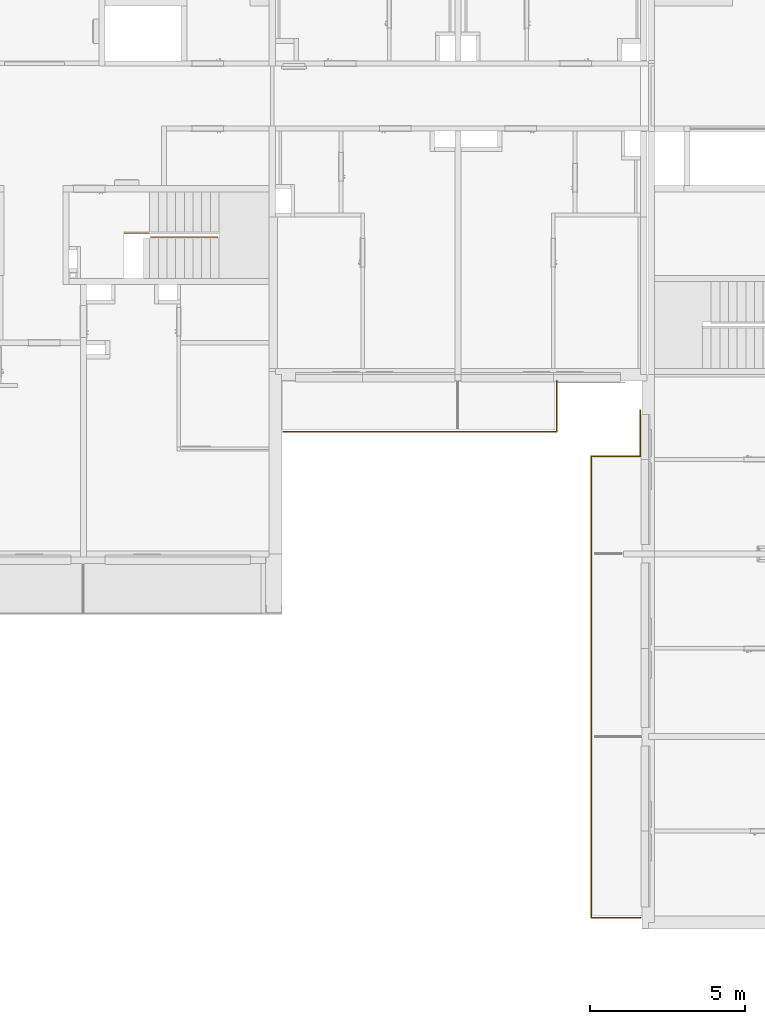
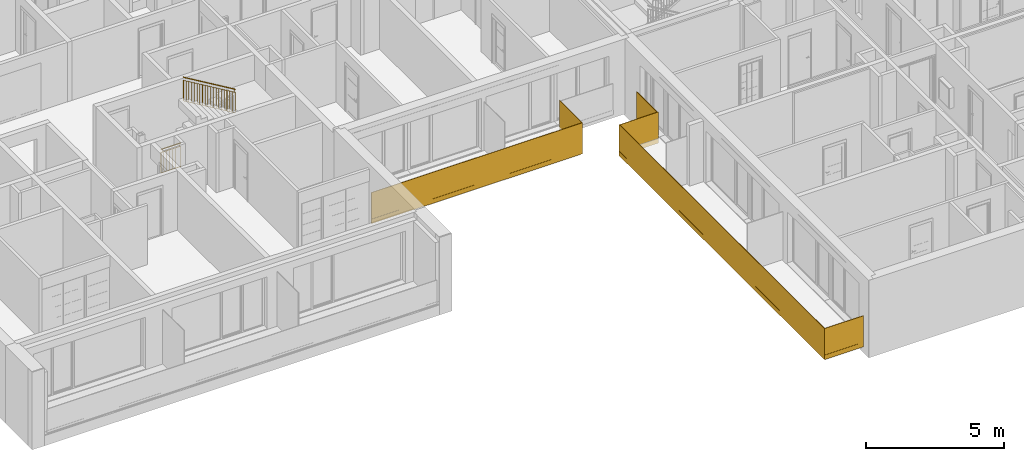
# One storey, part 6 of 67: 5 railings.
"""IFC2X3 building model written with IfcOpenShell, lengths in millimetres."""

from ifc_helpers import new_model, entity, si_unit, converted_unit, derived_unit, money_unit, direction, frame, origin_with_axes, place, context, subcontext, project, spatial, faceted_brep, material, material_list, type_object, element, save


model = new_model("IFC2X3")

# Units and contexts
model_context = context("Model", 3, precision=0.01, world=origin_with_axes(), true_north=direction((0.34421633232, 0.938890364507)))
body_context = subcontext(model_context, "Body", "Model", "MODEL_VIEW")
ifc_project = project(units=[si_unit("LENGTHUNIT", "METRE", prefix="MILLI"), si_unit("AREAUNIT", "SQUARE_METRE"), si_unit("VOLUMEUNIT", "CUBIC_METRE"), converted_unit("PLANEANGLEUNIT", "DEGREE", entity("IfcPlaneAngleMeasure", 0.0174532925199), si_unit("PLANEANGLEUNIT", "RADIAN"), dimensions=[0, 0, 0, 0, 0, 0, 0]), si_unit("SOLIDANGLEUNIT", "STERADIAN"), money_unit("USD"), converted_unit("TIMEUNIT", "Year", entity("IfcTimeMeasure", 31556926.0), si_unit("TIMEUNIT", "SECOND"), dimensions=[0, 0, 1, 0, 0, 0, 0]), si_unit("MASSUNIT", "GRAM", prefix="KILO"), si_unit("THERMODYNAMICTEMPERATUREUNIT", "DEGREE_CELSIUS"), si_unit("LUMINOUSINTENSITYUNIT", "LUMEN"), si_unit("ENERGYUNIT", "JOULE", prefix="MEGA"), derived_unit("THERMALCONDUCTANCEUNIT", [(si_unit("POWERUNIT", "WATT"), 1), (si_unit("LENGTHUNIT", "METRE"), -1), (si_unit("THERMODYNAMICTEMPERATUREUNIT", "KELVIN"), -1)]), derived_unit("SPECIFICHEATCAPACITYUNIT", [(si_unit("ENERGYUNIT", "JOULE"), 1), (si_unit("MASSUNIT", "GRAM", prefix="KILO"), -1), (si_unit("THERMODYNAMICTEMPERATUREUNIT", "KELVIN"), -1)]), derived_unit("MASSDENSITYUNIT", [(si_unit("MASSUNIT", "GRAM", prefix="KILO"), 1), (si_unit("VOLUMEUNIT", "CUBIC_METRE"), -1)])], contexts=[model_context])

# Site, building, storey
site_placement = place(None, origin_with_axes())
site = spatial("IfcSite", under=ifc_project, at=site_placement, Name="USTRONIE MORSKIE", CompositionType="ELEMENT")
building_placement = place(site_placement, origin_with_axes())
building = spatial("IfcBuilding", under=site, at=building_placement, Name="Budynek", CompositionType="ELEMENT")
storey_placement = place(building_placement, frame((0.0, 0.0, 4000.0), z_axis=(0.0, 0.0, 1.0), x_axis=(1.0, 0.0, 0.0)))
storey = spatial("IfcBuildingStorey", under=building, at=storey_placement, Name="PIĘTRO 1", CompositionType="ELEMENT", Elevation=4000.0)

# Railings
ifc_material_1 = material(Name="Szkło struktualne")
ifc_material_2 = material(Name="Profile aluminiowe")
ifc_material_list_1 = material_list([ifc_material_1, ifc_material_2, ifc_material_1, ifc_material_2, ifc_material_1, ifc_material_2])
railing_type = type_object("IfcRailingType", Name="Typ balustrady", PredefinedType="NOTDEFINED")
railing_1_placement = place(storey_placement, frame((408267.914768, 724111.198359, 0.0), z_axis=(0.0, 0.0, 1.0), x_axis=(-1.0, 0.0, 0.0)))
element("IfcRailing", 1, at=railing_1_placement, inside=storey, type_object=railing_type, material=ifc_material_list_1, Name="BL1", PredefinedType="NOTDEFINED", context=body_context, shape_type="Brep", body=[
    faceted_brep([(29.9999996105, -40.0000002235, -300.00000039), (29.9999996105, -40.0000002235, 1069.99999972), (1639.99901128, -40.0000002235, 1069.99999972), (1639.99901128, -40.0000002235, -300.00000039), (29.9999996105, -59.9999997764, 1069.99999972), (29.9999996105, -59.9999997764, -300.00000039), (1659.99896906, -59.9999997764, 1069.99999972), (1659.99896906, -59.9999997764, -300.00000039)], [[[0, 1, 2, 3]], [[4, 1, 0, 5]], [[2, 1, 4, 6]], [[3, 2, 6, 7]], [[5, 0, 3, 7]], [[6, 4, 5, 7]]]),
    faceted_brep([(1649.99899054, -64.9999999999, -105.0), (30.0, -64.9999999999, -105.0), (30.0, -64.9999999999, -305.0), (1649.99899054, -64.9999999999, -305.0), (1649.99899054, -59.9999999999, -105.0), (30.0, -59.9999999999, -105.0), (30.0, -59.9999999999, -300.0), (30.0, -40.0, -300.0), (30.0, -40.0, -105.0), (30.0, -35.0, -105.0), (30.0, -35.0, -305.0), (1649.99899054, -35.0, -305.0), (1649.99899054, -35.0, -105.0), (1649.99899054, -40.0, -105.0), (1649.99899054, -40.0, -300.0), (1649.99899054, -59.9999999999, -300.0)], [[[0, 1, 2, 3]], [[1, 0, 4, 5]], [[6, 7, 8, 9, 10, 2, 1, 5]], [[10, 11, 3, 2]], [[11, 12, 13, 14, 15, 4, 0, 3]], [[15, 6, 5, 4]], [[7, 6, 15, 14]], [[8, 7, 14, 13]], [[9, 8, 13, 12]], [[11, 10, 9, 12]]]),
    faceted_brep([(1639.99901165, -40.000000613, -300.00000039), (1639.99901165, -40.000000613, 1069.99999972), (1640.03011585, 14849.9993229, 1069.99999972), (1640.03011585, 14849.9993229, -300.00000039), (1659.99896943, -60.0000001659, 1069.99999972), (1659.99896943, -60.0000001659, -300.00000039), (1660.03015719, 14869.9993224, 1069.99999972), (1660.03015719, 14869.9993224, -300.00000039)], [[[0, 1, 2, 3]], [[4, 1, 0, 5]], [[2, 1, 4, 6]], [[3, 2, 6, 7]], [[5, 0, 3, 7]], [[6, 4, 5, 7]]]),
    faceted_brep([(1665.03013652, 14859.9992911, -105.0), (1664.99899054, -50.000031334, -105.0), (1664.99899054, -50.000031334, -305.0), (1665.03013652, 14859.9992911, -305.0), (1660.03013652, 14859.9993015, -105.0), (1659.99899054, -50.0000208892, -105.0), (1659.99899054, -50.0000208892, -300.0), (1639.99899054, -49.9999791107, -300.0), (1639.99899054, -49.9999791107, -105.0), (1634.99899054, -49.9999686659, -105.0), (1634.99899054, -49.9999686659, -305.0), (1635.03013652, 14859.9993537, -305.0), (1635.03013652, 14859.9993537, -105.0), (1640.03013652, 14859.9993433, -105.0), (1640.03013652, 14859.9993433, -300.0), (1660.03013652, 14859.9993015, -300.0)], [[[0, 1, 2, 3]], [[1, 0, 4, 5]], [[6, 7, 8, 9, 10, 2, 1, 5]], [[10, 11, 3, 2]], [[11, 12, 13, 14, 15, 4, 0, 3]], [[15, 6, 5, 4]], [[7, 6, 15, 14]], [[8, 7, 14, 13]], [[9, 8, 13, 12]], [[11, 10, 9, 12]]]),
    faceted_brep([(1640.03011624, 14849.9993226, -300.00000039), (1640.03011624, 14849.9993226, 1069.99999972), (30.0628355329, 14849.9993226, 1069.99999972), (30.0628355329, 14849.9993226, -300.00000039), (1660.03015757, 14869.9993222, 1069.99999972), (1660.03015757, 14869.9993222, -300.00000039), (30.0628355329, 14869.9993222, 1069.99999972), (30.0628355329, 14869.9993222, -300.00000039)], [[[0, 1, 2, 3]], [[4, 1, 0, 5]], [[2, 1, 4, 6]], [[3, 2, 6, 7]], [[5, 0, 3, 7]], [[6, 4, 5, 7]]]),
    faceted_brep([(30.0628352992, 14874.9993224, -105.0), (1650.03013652, 14874.9993224, -105.0), (1650.03013652, 14874.9993224, -305.0), (30.0628352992, 14874.9993224, -305.0), (30.0628352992, 14869.9993224, -105.0), (1650.03013652, 14869.9993224, -105.0), (1650.03013652, 14849.9993224, -300.0), (1650.03013652, 14849.9993224, -105.0), (1650.03013652, 14844.9993224, -105.0), (1650.03013652, 14844.9993224, -305.0), (1650.03013652, 14869.9993224, -300.0), (30.0628352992, 14844.9993224, -305.0), (30.0628352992, 14844.9993224, -105.0), (30.0628352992, 14849.9993224, -105.0), (30.0628352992, 14849.9993224, -300.0), (30.0628352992, 14869.9993224, -300.0)], [[[0, 1, 2, 3]], [[1, 0, 4, 5]], [[6, 7, 8, 9, 2, 1, 5, 10]], [[9, 11, 3, 2]], [[11, 12, 13, 14, 15, 4, 0, 3]], [[15, 10, 5, 4]], [[7, 6, 14, 13]], [[8, 7, 13, 12]], [[11, 9, 8, 12]], [[6, 10, 15, 14]]]),
])
ifc_material_list_2 = material_list([ifc_material_1, ifc_material_2, ifc_material_1, ifc_material_2])
railing_2_placement = place(storey_placement, frame((396619.640549, 725001.198359, 0.0), z_axis=(0.0, 0.0, 1.0), x_axis=(-1.0, 0.0, 0.0)))
element("IfcRailing", 2, at=railing_2_placement, inside=storey, type_object=railing_type, material=ifc_material_list_2, Name="BL1", PredefinedType="NOTDEFINED", context=body_context, shape_type="Brep", body=[
    faceted_brep([(-29.9999996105, 40.0000002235, -300.00000039), (-29.9999996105, 40.0000002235, 1069.99999972), (-8878.27323778, 40.0000002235, 1069.99999972), (-8878.27323778, 40.0000002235, -300.00000039), (-29.9999996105, 59.9999997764, 1069.99999972), (-29.9999996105, 59.9999997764, -300.00000039), (-8898.27323733, 59.9999997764, 1069.99999972), (-8898.27323733, 59.9999997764, -300.00000039)], [[[0, 1, 2, 3]], [[4, 1, 0, 5]], [[2, 1, 4, 6]], [[3, 2, 6, 7]], [[5, 0, 3, 7]], [[6, 4, 5, 7]]]),
    faceted_brep([(-8888.27323738, 64.9999999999, -105.0), (-30.0, 64.9999999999, -105.0), (-30.0, 64.9999999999, -305.0), (-8888.27323738, 64.9999999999, -305.0), (-8888.27323738, 59.9999999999, -105.0), (-30.0, 59.9999999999, -105.0), (-30.0, 59.9999999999, -300.0), (-30.0, 40.0, -300.0), (-30.0, 40.0, -105.0), (-30.0, 35.0, -105.0), (-30.0, 35.0, -305.0), (-8888.27323738, 35.0, -305.0), (-8888.27323738, 35.0, -105.0), (-8888.27323738, 40.0, -105.0), (-8888.27323738, 40.0, -300.0), (-8888.27323738, 59.9999999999, -300.0)], [[[0, 1, 2, 3]], [[1, 0, 4, 5]], [[6, 7, 8, 9, 10, 2, 1, 5]], [[10, 11, 3, 2]], [[11, 12, 13, 14, 15, 4, 0, 3]], [[15, 6, 5, 4]], [[7, 6, 15, 14]], [[8, 7, 14, 13]], [[9, 8, 13, 12]], [[11, 10, 9, 12]]]),
    faceted_brep([(-8878.2732376, 40.000000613, -300.00000039), (-8878.2732376, 40.000000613, 1069.99999972), (-8878.2732376, -1590.00067728, 1069.99999972), (-8878.2732376, -1590.00067728, -300.00000039), (-8898.27323715, 60.0000001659, 1069.99999972), (-8898.27323715, 60.0000001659, -300.00000039), (-8898.27323715, -1590.00067728, 1069.99999972), (-8898.27323715, -1590.00067728, -300.00000039)], [[[0, 1, 2, 3]], [[4, 1, 0, 5]], [[2, 1, 4, 6]], [[3, 2, 6, 7]], [[5, 0, 3, 7]], [[6, 4, 5, 7]]]),
    faceted_brep([(-8903.27323738, -1590.00067759, -105.0), (-8903.27323738, 50.0, -105.0), (-8903.27323738, 50.0, -305.0), (-8903.27323738, -1590.00067759, -305.0), (-8898.27323738, -1590.00067759, -105.0), (-8898.27323738, 50.0, -105.0), (-8898.27323738, 50.0, -300.0), (-8878.27323738, 50.0, -300.0), (-8878.27323738, 50.0, -105.0), (-8873.27323738, 50.0, -105.0), (-8873.27323738, 50.0, -305.0), (-8873.27323738, -1590.00067759, -305.0), (-8873.27323738, -1590.00067759, -105.0), (-8878.27323738, -1590.00067759, -105.0), (-8878.27323738, -1590.00067759, -300.0), (-8898.27323738, -1590.00067759, -300.0)], [[[0, 1, 2, 3]], [[1, 0, 4, 5]], [[6, 7, 8, 9, 10, 2, 1, 5]], [[10, 11, 3, 2]], [[11, 12, 13, 14, 15, 4, 0, 3]], [[15, 6, 5, 4]], [[7, 6, 15, 14]], [[8, 7, 14, 13]], [[9, 8, 13, 12]], [[11, 10, 9, 12]]]),
])
ifc_material_list_3 = material_list([ifc_material_1, ifc_material_2])
railing_3_placement = place(storey_placement, frame((408257.883673, 724111.198359, 0.0), z_axis=(0.0, 0.0, 1.0), x_axis=(1.0, 0.0, 0.0)))
element("IfcRailing", 3, at=railing_3_placement, inside=storey, type_object=railing_type, material=ifc_material_list_3, Name="BL1", PredefinedType="NOTDEFINED", context=body_context, shape_type="Brep", body=[
    faceted_brep([(-60.0, 1550.0, -300.0), (-60.0, 80.0, -300.0), (-60.0, 80.0, 1070.0), (-60.0, 1550.0, 1070.0), (-40.0, 80.0, -300.0), (-40.0, 1550.0, -300.0), (-40.0, 80.0, 1070.0), (-40.0, 1550.0, 1070.0)], [[[0, 1, 2, 3]], [[4, 1, 0, 5]], [[6, 2, 1, 4]], [[3, 2, 6, 7]], [[0, 3, 7, 5]], [[6, 4, 5, 7]]]),
    faceted_brep([(-35.0, 1550.0, -105.0), (-35.0, 80.0, -105.0), (-35.0, 80.0, -305.0), (-35.0, 1550.0, -305.0), (-40.0, 1550.0, -105.0), (-40.0, 80.0, -105.0), (-40.0, 80.0, -300.0), (-60.0, 80.0, -300.0), (-60.0, 80.0, -105.0), (-65.0, 80.0, -105.0), (-65.0, 80.0, -305.0), (-65.0, 1550.0, -305.0), (-65.0, 1550.0, -105.0), (-60.0, 1550.0, -105.0), (-60.0, 1550.0, -300.0), (-40.0, 1550.0, -300.0)], [[[0, 1, 2, 3]], [[1, 0, 4, 5]], [[6, 7, 8, 9, 10, 2, 1, 5]], [[10, 11, 3, 2]], [[11, 12, 13, 14, 15, 4, 0, 3]], [[15, 6, 5, 4]], [[7, 6, 15, 14]], [[8, 7, 14, 13]], [[9, 8, 13, 12]], [[11, 10, 9, 12]]]),
])
ifc_material_3 = material(Name="Stal konstrukcyjna")
ifc_material_4 = material(Name="Stal nierdzewna")
ifc_material_list_4 = material_list([ifc_material_3, ifc_material_3, ifc_material_4, ifc_material_4, ifc_material_4, ifc_material_3, ifc_material_3, ifc_material_3, ifc_material_3, ifc_material_3, ifc_material_3, ifc_material_3, ifc_material_3, ifc_material_3, ifc_material_3, ifc_material_3, ifc_material_3, ifc_material_3, ifc_material_3, ifc_material_3, ifc_material_3, ifc_material_3, ifc_material_3])
railing_4_placement = place(storey_placement, frame((394597.920919, 731201.199036, 1687.12602106), z_axis=(0.0, 0.0, 1.0), x_axis=(1.0, 0.0, 0.0)))
element("IfcRailing", 4, at=railing_4_placement, inside=storey, type_object=railing_type, material=ifc_material_list_4, Name="BL1", PredefinedType="NOTDEFINED", context=body_context, shape_type="Brep", body=[
    faceted_brep([(-44.3717153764, 45.0, -144.047619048), (-44.3717153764, 25.0, -144.047619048), (-44.3717153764, 25.0, 755.952380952), (-44.3717153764, 45.0, 755.952380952), (-24.3717153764, 45.0, -155.952380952), (-24.3717153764, 25.0, -155.952380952), (-39.3717153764, 40.0, -147.023809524), (-39.3717153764, 30.0, -147.023809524), (-29.3717153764, 30.0, -152.976190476), (-29.3717153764, 40.0, -152.976190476), (-24.3717153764, 25.0, 744.047619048), (-24.3717153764, 45.0, 744.047619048), (-39.3717153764, 40.0, 752.976190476), (-29.3717153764, 40.0, 747.023809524), (-29.3717153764, 30.0, 747.023809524), (-39.3717153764, 30.0, 752.976190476)], [[[0, 1, 2, 3]], [[0, 4, 5, 1], [6, 7, 8, 9]], [[1, 5, 10, 2]], [[3, 2, 10, 11], [12, 13, 14, 15]], [[4, 0, 3, 11]], [[5, 4, 11, 10]], [[7, 6, 12, 15]], [[8, 7, 15, 14]], [[9, 8, 14, 13]], [[6, 9, 13, 12]]]),
    faceted_brep([(-2215.62828462, 45.0, 1148.3670055), (-2215.62828462, 25.0, 1148.3670055), (-2215.62828462, 25.0, 2048.3670055), (-2215.62828462, 45.0, 2048.3670055), (-2195.62828462, 45.0, 1136.4622436), (-2195.62828462, 25.0, 1136.4622436), (-2210.62828462, 40.0, 1145.39081503), (-2210.62828462, 30.0, 1145.39081503), (-2200.62828462, 30.0, 1139.43843408), (-2200.62828462, 40.0, 1139.43843408), (-2195.62828462, 25.0, 2036.4622436), (-2195.62828462, 45.0, 2036.4622436), (-2210.62828462, 40.0, 2045.39081503), (-2200.62828462, 40.0, 2039.43843408), (-2200.62828462, 30.0, 2039.43843408), (-2210.62828462, 30.0, 2045.39081503)], [[[0, 1, 2, 3]], [[0, 4, 5, 1], [6, 7, 8, 9]], [[1, 5, 10, 2]], [[3, 2, 10, 11], [12, 13, 14, 15]], [[4, 0, 3, 11]], [[5, 4, 11, 10]], [[7, 6, 12, 15]], [[8, 7, 15, 14]], [[9, 8, 14, 13]], [[6, 9, 13, 12]]]),
    faceted_brep([(-34.3717153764, 59.9999999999, 900.0), (-47.1588118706, 59.9999999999, 878.51767789), (-2218.41538112, 59.9999999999, 2170.93230244), (-2205.62828462, 59.9999999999, 2192.41462455), (-34.3717153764, 9.99999999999, 900.0), (-47.1588118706, 9.99999999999, 878.51767789), (-47.1588118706, 25.0, 878.51767789), (-44.6013925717, 25.0, 882.814142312), (-44.6013925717, 45.0, 882.814142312), (-47.1588118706, 45.0, 878.51767789), (-2218.41538112, 45.0, 2170.93230244), (-2215.85796182, 45.0, 2175.22876686), (-2215.85796182, 25.0, 2175.22876686), (-2218.41538112, 25.0, 2170.93230244), (-2218.41538112, 9.99999999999, 2170.93230244), (-2205.62828462, 9.99999999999, 2192.41462455)], [[[0, 1, 2, 3]], [[0, 4, 5, 6, 7, 8, 9, 1]], [[1, 9, 10, 2]], [[3, 2, 10, 11, 12, 13, 14, 15]], [[4, 0, 3, 15]], [[5, 4, 15, 14]], [[6, 5, 14, 13]], [[7, 6, 13, 12]], [[8, 7, 12, 11]], [[9, 8, 11, 10]]]),
    faceted_brep([(-47.1588118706, 45.0, 878.51767789), (-47.1588118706, 25.0, 878.51767789), (-2218.41538112, 25.0, 2170.93230244), (-2218.41538112, 45.0, 2170.93230244), (-44.6013925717, 45.0, 882.814142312), (-44.6013925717, 25.0, 882.814142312), (-2215.85796182, 25.0, 2175.22876686), (-2215.85796182, 45.0, 2175.22876686)], [[[0, 1, 2, 3]], [[0, 4, 5, 1]], [[1, 5, 6, 2]], [[3, 2, 6, 7]], [[4, 0, 3, 7]], [[5, 4, 7, 6]]]),
    faceted_brep([(-79.8363595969, 45.0, 776.480503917), (-79.8363595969, 25.0, 776.480503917), (-79.8363595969, 25.0, 897.968599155), (-79.8363595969, 45.0, 897.968599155), (-74.8363595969, 45.0, 776.480503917), (-74.8363595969, 25.0, 776.480503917), (-74.8363595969, 25.0, 896.480503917), (-77.3363595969, 25.0, 897.968599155), (-77.3363595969, 45.0, 897.968599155), (-74.8363595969, 45.0, 896.480503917)], [[[0, 1, 2, 3]], [[0, 4, 5, 1]], [[1, 5, 6, 7, 2]], [[3, 2, 7, 8]], [[4, 0, 3, 8, 9]], [[5, 4, 9, 6]], [[7, 6, 9, 8]]]),
    faceted_brep([(-2165.1636404, 45.0, 2017.74674249), (-2165.1636404, 25.0, 2017.74674249), (-2165.1636404, 25.0, 2139.23483773), (-2165.1636404, 45.0, 2139.23483773), (-2160.1636404, 45.0, 2017.74674249), (-2160.1636404, 25.0, 2017.74674249), (-2160.1636404, 25.0, 2137.74674249), (-2162.6636404, 25.0, 2139.23483773), (-2162.6636404, 45.0, 2139.23483773), (-2160.1636404, 45.0, 2137.74674249)], [[[0, 1, 2, 3]], [[0, 4, 5, 1]], [[1, 5, 6, 7, 2]], [[3, 2, 7, 8]], [[4, 0, 3, 8, 9]], [[5, 4, 9, 6]], [[7, 6, 9, 8]]]),
    faceted_brep([(-34.3717153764, 54.9999999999, 750.0), (-36.9291346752, 54.9999999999, 745.703535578), (-2208.18570392, 54.9999999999, 2038.11816013), (-2205.62828462, 54.9999999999, 2042.41462455), (-34.3717153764, 15.0, 750.0), (-36.9291346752, 15.0, 745.703535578), (-2208.18570392, 15.0, 2038.11816013), (-2205.62828462, 15.0, 2042.41462455)], [[[0, 1, 2, 3]], [[0, 4, 5, 1]], [[1, 5, 6, 2]], [[3, 2, 6, 7]], [[4, 0, 3, 7]], [[5, 4, 7, 6]]]),
    faceted_brep([(-33.093005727, 54.9999999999, -157.851767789), (-35.6504250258, 54.9999999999, -162.148232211), (-2206.90699427, 54.9999999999, 1130.26639234), (-2204.34957497, 54.9999999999, 1134.56285676), (-33.093005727, 15.0, -157.851767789), (-35.6504250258, 15.0, -162.148232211), (-2206.90699427, 15.0, 1130.26639234), (-2204.34957497, 15.0, 1134.56285676)], [[[0, 1, 2, 3]], [[0, 4, 5, 1]], [[1, 5, 6, 2]], [[3, 2, 6, 7]], [[4, 0, 3, 7]], [[5, 4, 7, 6]]]),
    faceted_brep([(-153.648376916, 47.5, -84.001987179), (-153.648376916, 22.4999999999, -84.001987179), (-153.648376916, 22.4999999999, 815.998012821), (-153.648376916, 47.5, 815.998012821), (-143.648376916, 47.5, -89.9543681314), (-143.648376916, 22.4999999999, -89.9543681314), (-143.648376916, 22.4999999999, 810.045631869), (-143.648376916, 47.5, 810.045631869)], [[[0, 1, 2, 3]], [[0, 4, 5, 1]], [[1, 5, 6, 2]], [[3, 2, 6, 7]], [[4, 0, 3, 7]], [[5, 4, 7, 6]]]),
    faceted_brep([(-267.925038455, 47.5, -15.9801648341), (-267.925038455, 22.4999999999, -15.9801648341), (-267.925038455, 22.4999999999, 884.019835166), (-267.925038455, 47.5, 884.019835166), (-257.925038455, 47.5, -21.9325457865), (-257.925038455, 22.4999999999, -21.9325457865), (-257.925038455, 22.4999999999, 878.067454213), (-257.925038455, 47.5, 878.067454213)], [[[0, 1, 2, 3]], [[0, 4, 5, 1]], [[1, 5, 6, 2]], [[3, 2, 6, 7]], [[4, 0, 3, 7]], [[5, 4, 7, 6]]]),
    faceted_brep([(-382.201699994, 47.5, 52.0416575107), (-382.201699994, 22.4999999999, 52.0416575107), (-382.201699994, 22.4999999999, 952.041657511), (-382.201699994, 47.5, 952.041657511), (-372.201699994, 47.5, 46.0892765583), (-372.201699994, 22.4999999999, 46.0892765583), (-372.201699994, 22.4999999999, 946.089276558), (-372.201699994, 47.5, 946.089276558)], [[[0, 1, 2, 3]], [[0, 4, 5, 1]], [[1, 5, 6, 2]], [[3, 2, 6, 7]], [[4, 0, 3, 7]], [[5, 4, 7, 6]]]),
    faceted_brep([(-496.478361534, 47.5, 120.063479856), (-496.478361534, 22.4999999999, 120.063479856), (-496.478361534, 22.4999999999, 1020.06347986), (-496.478361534, 47.5, 1020.06347986), (-486.478361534, 47.5, 114.111098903), (-486.478361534, 22.4999999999, 114.111098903), (-486.478361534, 22.4999999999, 1014.1110989), (-486.478361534, 47.5, 1014.1110989)], [[[0, 1, 2, 3]], [[0, 4, 5, 1]], [[1, 5, 6, 2]], [[3, 2, 6, 7]], [[4, 0, 3, 7]], [[5, 4, 7, 6]]]),
    faceted_brep([(-610.755023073, 47.5, 188.0853022), (-610.755023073, 22.4999999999, 188.0853022), (-610.755023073, 22.4999999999, 1088.0853022), (-610.755023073, 47.5, 1088.0853022), (-600.755023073, 47.5, 182.132921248), (-600.755023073, 22.4999999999, 182.132921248), (-600.755023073, 22.4999999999, 1082.13292125), (-600.755023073, 47.5, 1082.13292125)], [[[0, 1, 2, 3]], [[0, 4, 5, 1]], [[1, 5, 6, 2]], [[3, 2, 6, 7]], [[4, 0, 3, 7]], [[5, 4, 7, 6]]]),
    faceted_brep([(-725.031684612, 47.5, 256.107124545), (-725.031684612, 22.4999999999, 256.107124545), (-725.031684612, 22.4999999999, 1156.10712455), (-725.031684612, 47.5, 1156.10712455), (-715.031684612, 47.5, 250.154743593), (-715.031684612, 22.4999999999, 250.154743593), (-715.031684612, 22.4999999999, 1150.15474359), (-715.031684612, 47.5, 1150.15474359)], [[[0, 1, 2, 3]], [[0, 4, 5, 1]], [[1, 5, 6, 2]], [[3, 2, 6, 7]], [[4, 0, 3, 7]], [[5, 4, 7, 6]]]),
    faceted_brep([(-839.308346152, 47.5, 324.12894689), (-839.308346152, 22.4999999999, 324.12894689), (-839.308346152, 22.4999999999, 1224.12894689), (-839.308346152, 47.5, 1224.12894689), (-829.308346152, 47.5, 318.176565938), (-829.308346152, 22.4999999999, 318.176565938), (-829.308346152, 22.4999999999, 1218.17656594), (-829.308346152, 47.5, 1218.17656594)], [[[0, 1, 2, 3]], [[0, 4, 5, 1]], [[1, 5, 6, 2]], [[3, 2, 6, 7]], [[4, 0, 3, 7]], [[5, 4, 7, 6]]]),
    faceted_brep([(-953.585007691, 47.5, 392.150769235), (-953.585007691, 22.4999999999, 392.150769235), (-953.585007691, 22.4999999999, 1292.15076923), (-953.585007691, 47.5, 1292.15076923), (-943.585007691, 47.5, 386.198388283), (-943.585007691, 22.4999999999, 386.198388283), (-943.585007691, 22.4999999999, 1286.19838828), (-943.585007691, 47.5, 1286.19838828)], [[[0, 1, 2, 3]], [[0, 4, 5, 1]], [[1, 5, 6, 2]], [[3, 2, 6, 7]], [[4, 0, 3, 7]], [[5, 4, 7, 6]]]),
    faceted_brep([(-1067.86166923, 47.5, 460.17259158), (-1067.86166923, 22.4999999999, 460.17259158), (-1067.86166923, 22.4999999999, 1360.17259158), (-1067.86166923, 47.5, 1360.17259158), (-1057.86166923, 47.5, 454.220210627), (-1057.86166923, 22.4999999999, 454.220210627), (-1057.86166923, 22.4999999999, 1354.22021063), (-1057.86166923, 47.5, 1354.22021063)], [[[0, 1, 2, 3]], [[0, 4, 5, 1]], [[1, 5, 6, 2]], [[3, 2, 6, 7]], [[4, 0, 3, 7]], [[5, 4, 7, 6]]]),
    faceted_brep([(-1182.13833077, 47.5, 528.194413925), (-1182.13833077, 22.4999999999, 528.194413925), (-1182.13833077, 22.4999999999, 1428.19441392), (-1182.13833077, 47.5, 1428.19441392), (-1172.13833077, 47.5, 522.242032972), (-1172.13833077, 22.4999999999, 522.242032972), (-1172.13833077, 22.4999999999, 1422.24203297), (-1172.13833077, 47.5, 1422.24203297)], [[[0, 1, 2, 3]], [[0, 4, 5, 1]], [[1, 5, 6, 2]], [[3, 2, 6, 7]], [[4, 0, 3, 7]], [[5, 4, 7, 6]]]),
    faceted_brep([(-1296.41499231, 47.5, 596.216236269), (-1296.41499231, 22.4999999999, 596.216236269), (-1296.41499231, 22.4999999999, 1496.21623627), (-1296.41499231, 47.5, 1496.21623627), (-1286.41499231, 47.5, 590.263855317), (-1286.41499231, 22.4999999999, 590.263855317), (-1286.41499231, 22.4999999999, 1490.26385532), (-1286.41499231, 47.5, 1490.26385532)], [[[0, 1, 2, 3]], [[0, 4, 5, 1]], [[1, 5, 6, 2]], [[3, 2, 6, 7]], [[4, 0, 3, 7]], [[5, 4, 7, 6]]]),
    faceted_brep([(-1410.69165385, 47.5, 664.238058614), (-1410.69165385, 22.4999999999, 664.238058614), (-1410.69165385, 22.4999999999, 1564.23805861), (-1410.69165385, 47.5, 1564.23805861), (-1400.69165385, 47.5, 658.285677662), (-1400.69165385, 22.4999999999, 658.285677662), (-1400.69165385, 22.4999999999, 1558.28567766), (-1400.69165385, 47.5, 1558.28567766)], [[[0, 1, 2, 3]], [[0, 4, 5, 1]], [[1, 5, 6, 2]], [[3, 2, 6, 7]], [[4, 0, 3, 7]], [[5, 4, 7, 6]]]),
    faceted_brep([(-1524.96831539, 47.5, 732.259880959), (-1524.96831539, 22.4999999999, 732.259880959), (-1524.96831539, 22.4999999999, 1632.25988096), (-1524.96831539, 47.5, 1632.25988096), (-1514.96831539, 47.5, 726.307500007), (-1514.96831539, 22.4999999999, 726.307500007), (-1514.96831539, 22.4999999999, 1626.30750001), (-1514.96831539, 47.5, 1626.30750001)], [[[0, 1, 2, 3]], [[0, 4, 5, 1]], [[1, 5, 6, 2]], [[3, 2, 6, 7]], [[4, 0, 3, 7]], [[5, 4, 7, 6]]]),
    faceted_brep([(-1639.24497693, 47.5, 800.281703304), (-1639.24497693, 22.4999999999, 800.281703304), (-1639.24497693, 22.4999999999, 1700.2817033), (-1639.24497693, 47.5, 1700.2817033), (-1629.24497693, 47.5, 794.329322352), (-1629.24497693, 22.4999999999, 794.329322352), (-1629.24497693, 22.4999999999, 1694.32932235), (-1629.24497693, 47.5, 1694.32932235)], [[[0, 1, 2, 3]], [[0, 4, 5, 1]], [[1, 5, 6, 2]], [[3, 2, 6, 7]], [[4, 0, 3, 7]], [[5, 4, 7, 6]]]),
    faceted_brep([(-1753.52163847, 47.5, 868.303525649), (-1753.52163847, 22.4999999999, 868.303525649), (-1753.52163847, 22.4999999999, 1768.30352565), (-1753.52163847, 47.5, 1768.30352565), (-1743.52163847, 47.5, 862.351144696), (-1743.52163847, 22.4999999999, 862.351144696), (-1743.52163847, 22.4999999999, 1762.3511447), (-1743.52163847, 47.5, 1762.3511447)], [[[0, 1, 2, 3]], [[0, 4, 5, 1]], [[1, 5, 6, 2]], [[3, 2, 6, 7]], [[4, 0, 3, 7]], [[5, 4, 7, 6]]]),
    faceted_brep([(-1867.79830001, 47.5, 936.325347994), (-1867.79830001, 22.4999999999, 936.325347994), (-1867.79830001, 22.4999999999, 1836.32534799), (-1867.79830001, 47.5, 1836.32534799), (-1857.79830001, 47.5, 930.372967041), (-1857.79830001, 22.4999999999, 930.372967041), (-1857.79830001, 22.4999999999, 1830.37296704), (-1857.79830001, 47.5, 1830.37296704)], [[[0, 1, 2, 3]], [[0, 4, 5, 1]], [[1, 5, 6, 2]], [[3, 2, 6, 7]], [[4, 0, 3, 7]], [[5, 4, 7, 6]]]),
    faceted_brep([(-1982.07496154, 47.5, 1004.34717034), (-1982.07496154, 22.4999999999, 1004.34717034), (-1982.07496154, 22.4999999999, 1904.34717034), (-1982.07496154, 47.5, 1904.34717034), (-1972.07496154, 47.5, 998.394789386), (-1972.07496154, 22.4999999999, 998.394789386), (-1972.07496154, 22.4999999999, 1898.39478939), (-1972.07496154, 47.5, 1898.39478939)], [[[0, 1, 2, 3]], [[0, 4, 5, 1]], [[1, 5, 6, 2]], [[3, 2, 6, 7]], [[4, 0, 3, 7]], [[5, 4, 7, 6]]]),
    faceted_brep([(-2096.35162308, 47.5, 1072.36899268), (-2096.35162308, 22.4999999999, 1072.36899268), (-2096.35162308, 22.4999999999, 1972.36899268), (-2096.35162308, 47.5, 1972.36899268), (-2086.35162308, 47.5, 1066.41661173), (-2086.35162308, 22.4999999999, 1066.41661173), (-2086.35162308, 22.4999999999, 1966.41661173), (-2086.35162308, 47.5, 1966.41661173)], [[[0, 1, 2, 3]], [[0, 4, 5, 1]], [[1, 5, 6, 2]], [[3, 2, 6, 7]], [[4, 0, 3, 7]], [[5, 4, 7, 6]]]),
])
ifc_material_list_5 = material_list([ifc_material_3, ifc_material_3, ifc_material_4, ifc_material_4, ifc_material_4, ifc_material_3, ifc_material_3, ifc_material_3, ifc_material_3, ifc_material_3, ifc_material_3])
railing_5_placement = place(storey_placement, frame((392357.920919, 731401.199036, 0.0), z_axis=(0.0, 0.0, 1.0), x_axis=(1.0, 0.0, 0.0)))
element("IfcRailing", 5, at=railing_5_placement, inside=storey, type_object=railing_type, material=ifc_material_list_5, Name="BL1", PredefinedType="NOTDEFINED", context=body_context, shape_type="Brep", body=[
    faceted_brep([(-9.99999999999, -25.0, -150.0), (-9.99999999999, -45.0, -150.0), (-9.99999999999, -45.0, 750.0), (-9.99999999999, -25.0, 750.0), (9.99999999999, -25.0, -150.0), (9.99999999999, -45.0, -150.0), (-5.0, -30.0, -150.0), (-5.0, -40.0, -150.0), (5.0, -40.0, -150.0), (5.0, -30.0, -150.0), (9.99999999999, -45.0, 750.0), (9.99999999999, -25.0, 750.0), (-5.0, -30.0, 750.0), (5.0, -30.0, 750.0), (5.0, -40.0, 750.0), (-5.0, -40.0, 750.0)], [[[0, 1, 2, 3]], [[0, 4, 5, 1], [6, 7, 8, 9]], [[1, 5, 10, 2]], [[3, 2, 10, 11], [12, 13, 14, 15]], [[4, 0, 3, 11]], [[5, 4, 11, 10]], [[7, 6, 12, 15]], [[8, 7, 15, 14]], [[9, 8, 14, 13]], [[6, 9, 13, 12]]]),
    faceted_brep([(-845.0, -25.0, -150.0), (-845.0, -45.0, -150.0), (-845.0, -45.0, 750.0), (-845.0, -25.0, 750.0), (-825.0, -25.0, -150.0), (-825.0, -45.0, -150.0), (-840.0, -30.0, -150.0), (-840.0, -40.0, -150.0), (-830.0, -40.0, -150.0), (-830.0, -30.0, -150.0), (-825.0, -45.0, 750.0), (-825.0, -25.0, 750.0), (-840.0, -30.0, 750.0), (-830.0, -30.0, 750.0), (-830.0, -40.0, 750.0), (-840.0, -40.0, 750.0)], [[[0, 1, 2, 3]], [[0, 4, 5, 1], [6, 7, 8, 9]], [[1, 5, 10, 2]], [[3, 2, 10, 11], [12, 13, 14, 15]], [[4, 0, 3, 11]], [[5, 4, 11, 10]], [[7, 6, 12, 15]], [[8, 7, 15, 14]], [[9, 8, 14, 13]], [[6, 9, 13, 12]]]),
    faceted_brep([(0.0, -9.99999999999, 900.0), (0.0, -9.99999999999, 875.0), (-835.0, -9.99999999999, 875.0), (-835.0, -9.99999999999, 900.0), (0.0, -59.9999999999, 900.0), (0.0, -59.9999999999, 875.0), (0.0, -45.0, 875.0), (0.0, -45.0, 880.0), (0.0, -25.0, 880.0), (0.0, -25.0, 875.0), (-835.0, -25.0, 875.0), (-835.0, -25.0, 880.0), (-835.0, -45.0, 880.0), (-835.0, -45.0, 875.0), (-835.0, -59.9999999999, 875.0), (-835.0, -59.9999999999, 900.0)], [[[0, 1, 2, 3]], [[0, 4, 5, 6, 7, 8, 9, 1]], [[1, 9, 10, 2]], [[3, 2, 10, 11, 12, 13, 14, 15]], [[4, 0, 3, 15]], [[5, 4, 15, 14]], [[6, 5, 14, 13]], [[7, 6, 13, 12]], [[8, 7, 12, 11]], [[9, 8, 11, 10]]]),
    faceted_brep([(0.0, -25.0, 875.0), (0.0, -45.0, 875.0), (-835.0, -45.0, 875.0), (-835.0, -25.0, 875.0), (0.0, -25.0, 880.0), (0.0, -45.0, 880.0), (-835.0, -45.0, 880.0), (-835.0, -25.0, 880.0)], [[[0, 1, 2, 3]], [[0, 4, 5, 1]], [[1, 5, 6, 2]], [[3, 2, 6, 7]], [[4, 0, 3, 7]], [[5, 4, 7, 6]]]),
    faceted_brep([(-52.5, -25.0, 755.0), (-52.5, -45.0, 755.0), (-52.5, -45.0, 875.0), (-52.5, -25.0, 875.0), (-47.5, -25.0, 755.0), (-47.5, -45.0, 755.0), (-47.5, -45.0, 875.0), (-47.5, -25.0, 875.0)], [[[0, 1, 2, 3]], [[0, 4, 5, 1]], [[1, 5, 6, 2]], [[3, 2, 6, 7]], [[4, 0, 3, 7]], [[5, 4, 7, 6]]]),
    faceted_brep([(-787.5, -25.0, 755.0), (-787.5, -45.0, 755.0), (-787.5, -45.0, 875.0), (-787.5, -25.0, 875.0), (-782.5, -25.0, 755.0), (-782.5, -45.0, 755.0), (-782.5, -45.0, 875.0), (-782.5, -25.0, 875.0)], [[[0, 1, 2, 3]], [[0, 4, 5, 1]], [[1, 5, 6, 2]], [[3, 2, 6, 7]], [[4, 0, 3, 7]], [[5, 4, 7, 6]]]),
    faceted_brep([(0.0, -15.0, 750.0), (0.0, -15.0, 745.0), (-835.0, -15.0, 745.0), (-835.0, -15.0, 750.0), (0.0, -54.9999999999, 750.0), (0.0, -54.9999999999, 745.0), (-835.0, -54.9999999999, 745.0), (-835.0, -54.9999999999, 750.0)], [[[0, 1, 2, 3]], [[0, 4, 5, 1]], [[1, 5, 6, 2]], [[3, 2, 6, 7]], [[4, 0, 3, 7]], [[5, 4, 7, 6]]]),
    faceted_brep([(0.0, -15.0, -157.5), (0.0, -15.0, -162.5), (-835.0, -15.0, -162.5), (-835.0, -15.0, -157.5), (0.0, -54.9999999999, -157.5), (0.0, -54.9999999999, -162.5), (-835.0, -54.9999999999, -162.5), (-835.0, -54.9999999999, -157.5)], [[[0, 1, 2, 3]], [[0, 4, 5, 1]], [[1, 5, 6, 2]], [[3, 2, 6, 7]], [[4, 0, 3, 7]], [[5, 4, 7, 6]]]),
    faceted_brep([(-121.785714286, -22.4999999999, -155.0), (-121.785714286, -47.5, -155.0), (-121.785714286, -47.5, 745.0), (-121.785714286, -22.4999999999, 745.0), (-116.785714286, -22.4999999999, -155.0), (-116.785714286, -47.5, -155.0), (-116.785714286, -47.5, 745.0), (-116.785714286, -22.4999999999, 745.0)], [[[0, 1, 2, 3]], [[0, 4, 5, 1]], [[1, 5, 6, 2]], [[3, 2, 6, 7]], [[4, 0, 3, 7]], [[5, 4, 7, 6]]]),
    faceted_brep([(-241.071428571, -22.4999999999, -155.0), (-241.071428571, -47.5, -155.0), (-241.071428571, -47.5, 745.0), (-241.071428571, -22.4999999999, 745.0), (-236.071428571, -22.4999999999, -155.0), (-236.071428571, -47.5, -155.0), (-236.071428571, -47.5, 745.0), (-236.071428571, -22.4999999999, 745.0)], [[[0, 1, 2, 3]], [[0, 4, 5, 1]], [[1, 5, 6, 2]], [[3, 2, 6, 7]], [[4, 0, 3, 7]], [[5, 4, 7, 6]]]),
    faceted_brep([(-360.357142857, -22.4999999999, -155.0), (-360.357142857, -47.5, -155.0), (-360.357142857, -47.5, 745.0), (-360.357142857, -22.4999999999, 745.0), (-355.357142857, -22.4999999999, -155.0), (-355.357142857, -47.5, -155.0), (-355.357142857, -47.5, 745.0), (-355.357142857, -22.4999999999, 745.0)], [[[0, 1, 2, 3]], [[0, 4, 5, 1]], [[1, 5, 6, 2]], [[3, 2, 6, 7]], [[4, 0, 3, 7]], [[5, 4, 7, 6]]]),
    faceted_brep([(-479.642857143, -22.4999999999, -155.0), (-479.642857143, -47.5, -155.0), (-479.642857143, -47.5, 745.0), (-479.642857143, -22.4999999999, 745.0), (-474.642857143, -22.4999999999, -155.0), (-474.642857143, -47.5, -155.0), (-474.642857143, -47.5, 745.0), (-474.642857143, -22.4999999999, 745.0)], [[[0, 1, 2, 3]], [[0, 4, 5, 1]], [[1, 5, 6, 2]], [[3, 2, 6, 7]], [[4, 0, 3, 7]], [[5, 4, 7, 6]]]),
    faceted_brep([(-598.928571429, -22.4999999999, -155.0), (-598.928571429, -47.5, -155.0), (-598.928571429, -47.5, 745.0), (-598.928571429, -22.4999999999, 745.0), (-593.928571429, -22.4999999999, -155.0), (-593.928571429, -47.5, -155.0), (-593.928571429, -47.5, 745.0), (-593.928571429, -22.4999999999, 745.0)], [[[0, 1, 2, 3]], [[0, 4, 5, 1]], [[1, 5, 6, 2]], [[3, 2, 6, 7]], [[4, 0, 3, 7]], [[5, 4, 7, 6]]]),
    faceted_brep([(-718.214285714, -22.4999999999, -155.0), (-718.214285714, -47.5, -155.0), (-718.214285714, -47.5, 745.0), (-718.214285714, -22.4999999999, 745.0), (-713.214285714, -22.4999999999, -155.0), (-713.214285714, -47.5, -155.0), (-713.214285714, -47.5, 745.0), (-713.214285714, -22.4999999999, 745.0)], [[[0, 1, 2, 3]], [[0, 4, 5, 1]], [[1, 5, 6, 2]], [[3, 2, 6, 7]], [[4, 0, 3, 7]], [[5, 4, 7, 6]]]),
])

save(model, "model.ifc")
